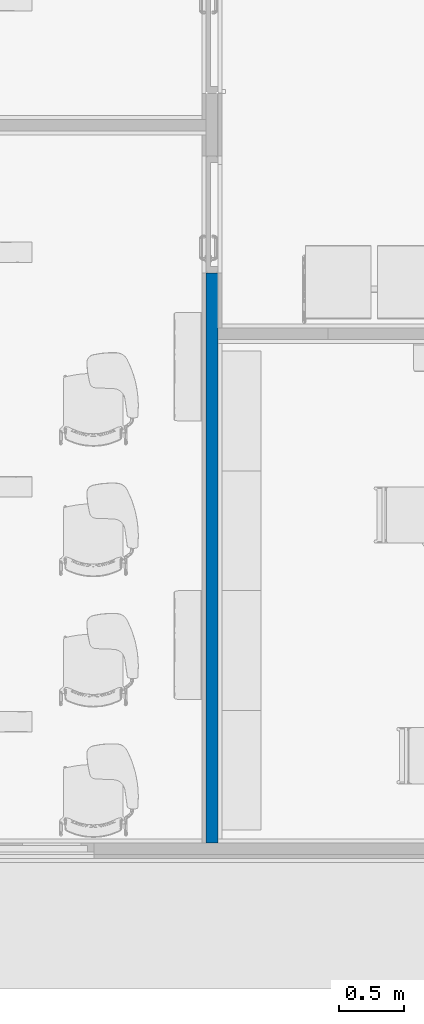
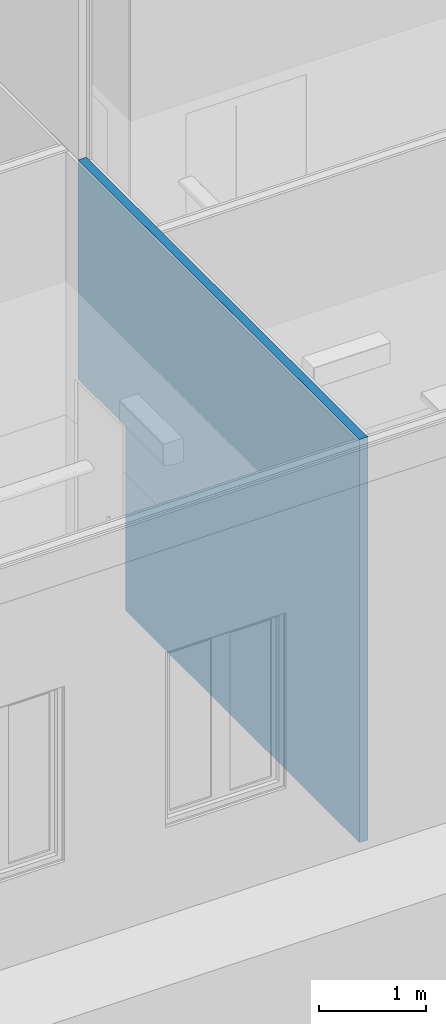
# One storey, part 5 of 155: 1 wall, 1 opening.
"""IFC2X3 building model written with IfcOpenShell, lengths in metres."""

from ifc_helpers import new_model, entity, si_unit, converted_unit, derived_unit, direction, frame, frame_2d, origin, place, context, subcontext, project, spatial, rectangle, extrude, material, layer, layer_set, layer_usage, type_object, element, save


model = new_model("IFC2X3")

# Units and contexts
model_context = context("Model", 3, precision=1e-05, world=origin(), true_north=direction((6.12303176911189e-17, 1.0)))
body_context = subcontext(model_context, "Body", "Model", "MODEL_VIEW")
ifc_project = project(units=[si_unit("LENGTHUNIT", "METRE"), si_unit("AREAUNIT", "SQUARE_METRE"), si_unit("VOLUMEUNIT", "CUBIC_METRE"), converted_unit("PLANEANGLEUNIT", "DEGREE", entity("IfcRatioMeasure", 0.0174532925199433), si_unit("PLANEANGLEUNIT", "RADIAN"), dimensions=[0, 0, 0, 0, 0, 0, 0]), si_unit("MASSUNIT", "GRAM", prefix="KILO"), derived_unit("MASSDENSITYUNIT", [(si_unit("MASSUNIT", "GRAM", prefix="KILO"), 1), (si_unit("LENGTHUNIT", "METRE"), -3)]), si_unit("TIMEUNIT", "SECOND"), si_unit("FREQUENCYUNIT", "HERTZ"), si_unit("THERMODYNAMICTEMPERATUREUNIT", "DEGREE_CELSIUS"), derived_unit("THERMALTRANSMITTANCEUNIT", [(si_unit("MASSUNIT", "GRAM", prefix="KILO"), 1), (si_unit("THERMODYNAMICTEMPERATUREUNIT", "KELVIN"), -1), (si_unit("TIMEUNIT", "SECOND"), -3)]), derived_unit("VOLUMETRICFLOWRATEUNIT", [(si_unit("LENGTHUNIT", "METRE"), 3), (si_unit("TIMEUNIT", "SECOND"), -1)]), si_unit("ELECTRICCURRENTUNIT", "AMPERE"), si_unit("ELECTRICVOLTAGEUNIT", "VOLT"), si_unit("POWERUNIT", "WATT"), si_unit("FORCEUNIT", "NEWTON", prefix="KILO"), si_unit("ILLUMINANCEUNIT", "LUX"), si_unit("LUMINOUSFLUXUNIT", "LUMEN"), si_unit("LUMINOUSINTENSITYUNIT", "CANDELA"), derived_unit("USERDEFINED", [(si_unit("MASSUNIT", "GRAM", prefix="KILO"), -1), (si_unit("LENGTHUNIT", "METRE"), -2), (si_unit("TIMEUNIT", "SECOND"), 3), (si_unit("LUMINOUSFLUXUNIT", "LUMEN"), 1)]), derived_unit("LINEARVELOCITYUNIT", [(si_unit("LENGTHUNIT", "METRE"), 1), (si_unit("TIMEUNIT", "SECOND"), -1)]), si_unit("PRESSUREUNIT", "PASCAL"), derived_unit("USERDEFINED", [(si_unit("LENGTHUNIT", "METRE"), -2), (si_unit("MASSUNIT", "GRAM", prefix="KILO"), 1), (si_unit("TIMEUNIT", "SECOND"), -2)])], contexts=[model_context])

# Site, building, storey
site_placement = place(None, frame((26.9889013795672, -17.5624287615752, 0.0)))
site = spatial("IfcSite", under=ifc_project, at=site_placement, Name="Default", CompositionType="ELEMENT")
building_placement = place(site_placement, origin())
building = spatial("IfcBuilding", under=site, at=building_placement, Name="C. C. L. Monsenhor Antônio Sampaio", CompositionType="ELEMENT")
storey_placement = place(building_placement, frame((0.0, 0.0, 1.19999999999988)))
storey = spatial("IfcBuildingStorey", under=building, at=storey_placement, Name="Nível 1.2", CompositionType="ELEMENT", Elevation=1.19999999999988)

# Wall, opening
ifc_material = material(Name="ALVENARIA")
ifc_layer = layer(ifc_material, 0.09)
ifc_layer_set = layer_set([ifc_layer], Name="Parede básica:ENucleo parede 15cm")
ifc_layer_usage = layer_usage(ifc_layer_set, "AXIS2", "NEGATIVE", 0.045)
wall_type = type_object("IfcWallType", Name="Parede básica:ENucleo parede 15cm", PredefinedType="STANDARD", material=ifc_layer_set)
wall_placement = place(storey_placement, frame((-6.21555229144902, -34.0730663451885, 0.0), z_axis=(0.0, 0.0, 1.0), x_axis=(0.0, -1.0, 0.0)))
wall = element("IfcWallStandardCase", 1, at=wall_placement, inside=storey, type_object=wall_type, material=ifc_layer_usage, Name="Parede básica:ENucleo parede 15cm", ObjectType="Parede básica:ENucleo parede 15cm", context=body_context, shape_type="SweptSolid", body=[
    extrude(rectangle(XDim=5.25999999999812, YDim=0.089999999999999, at=frame_2d((2.62999999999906, -1.45716771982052e-16), x_axis=(-1.0, 0.0))), origin(), (0.0, 0.0, 1.0), 4.60000000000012),
])
opening_placement = place(wall_placement, frame((0.889999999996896, 0.0449999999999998, 0.0)))
element("IfcOpeningElement", 2, at=opening_placement, cuts=wall, Name="Porta levantamento:90 x 211 AZUL:1", ObjectType="Opening", context=body_context, shape_type="SweptSolid", body=[
    extrude(rectangle(XDim=2.09999999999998, YDim=0.9, at=frame_2d((1.04999999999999, 0.45), x_axis=(1.0, 0.0))), frame((0.0, 0.0, 0.0), z_axis=(0.0, -1.0, 0.0), x_axis=(0.0, 0.0, 1.0)), (0.0, 0.0, 1.0), 0.09),
])

save(model, "model.ifc")
